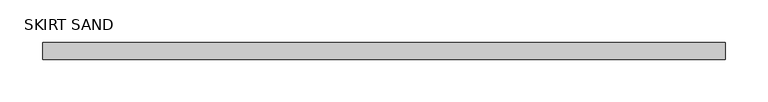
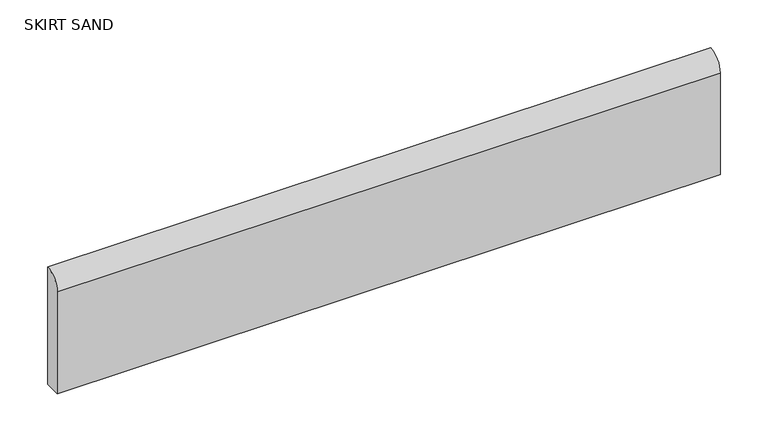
"""IFC4 building model written with IfcOpenShell, lengths in millimetres: proxy geometry, PORTOBELLO - RODAPÉ MONOLITH SKIRT SAND 15X60 EXT BOLD (BASE NA LINHA) : SKIRT SAND."""

from ifc_helpers import new_model, si_unit, point, frame, frame_2d, origin, place, context, project, spatial, polyline, circle_curve, trimmed, segment, composite_curve, outline, extrude, source, transform, mapped, element, save


def skirt_sand_19b2a7f1(model_context):
    return source(origin(), model_context, "Body", "SweptSolid", [
        extrude(outline(composite_curve([segment(polyline([(0.0, 150.0), (0.0, 0.0), (-20.0, 0.0), (-20.0, 130.0)]), True, "CONTINUOUS"), segment(trimmed(circle_curve(frame_2d((0.0, 130.0)), 20.0), [point((-20.0, 130.0))], [point((0.0, 150.0))], False, "CARTESIAN"), True, "CONTINUOUS")], self_intersect=False)), frame((0.0, 0.0, 0.0), z_axis=(1.0, 0.0, 0.0), x_axis=(0.0, 1.0, 0.0)), (0.0, 0.0, 1.0), 800.0),
    ])


if __name__ == "__main__":
    model = new_model("IFC4")
    model_context = context("Model", 3, world=origin())
    ifc_project = project(units=[si_unit("LENGTHUNIT", "METRE", prefix="MILLI")], contexts=[model_context])
    site = spatial("IfcSite", under=ifc_project)
    building = spatial("IfcBuilding", under=site)
    placement = place(None, origin())
    skirt_sand_shape = skirt_sand_19b2a7f1(model_context)
    element("IfcBuildingElementProxy", 1, Name="PORTOBELLO - RODAPÉ MONOLITH SKIRT SAND 15X60 EXT BOLD (BASE NA LINHA) : SKIRT SAND", ObjectType="PORTOBELLO - RODAPÉ MONOLITH SKIRT SAND 15X60 EXT BOLD (BASE NA LINHA) : SKIRT SAND", at=placement, inside=building, context=model_context, shape_type="MappedRepresentation", body=[
        mapped(skirt_sand_shape, transform((0.0, 0.0, 0.0), x_axis=(1.0, 0.0, 0.0), y_axis=(0.0, 1.0, 0.0), z_axis=(0.0, 0.0, 1.0))),
    ])
    save(model, "model.ifc")
